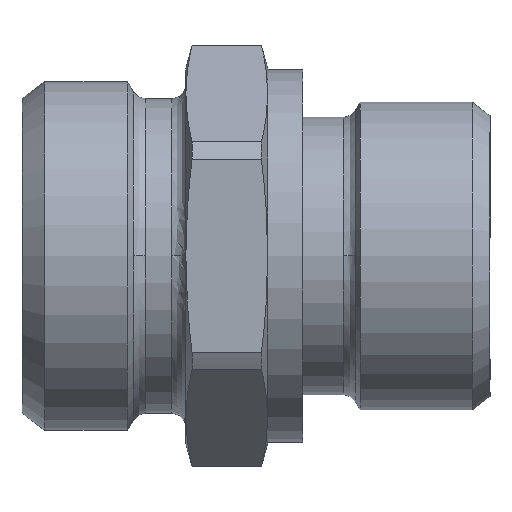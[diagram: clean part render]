
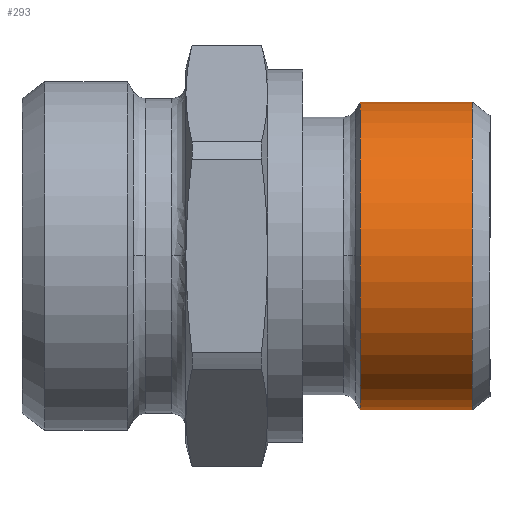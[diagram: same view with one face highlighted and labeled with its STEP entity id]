
A CAD part, top view. The second image highlights one B-rep face of the part: STEP entity #293.
In plain terms, the highlighted cylindrical face has radius 13.15 mm (diameter 26.3 mm), a partial arc.
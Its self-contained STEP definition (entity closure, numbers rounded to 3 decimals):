
#225=CARTESIAN_POINT('',(0.,13.15,-20.974));
#226=VERTEX_POINT('',#225);
#235=CARTESIAN_POINT('',(0.,-13.15,-20.974));
#236=VERTEX_POINT('',#235);
#237=CARTESIAN_POINT('',(0.,0.,-20.974));
#238=DIRECTION('',(0.0,0.0,-1.0));
#239=DIRECTION('',(0.0,1.0,0.0));
#240=AXIS2_PLACEMENT_3D('',#237,#238,#239);
#241=CIRCLE('',#240,13.15);
#242=EDGE_CURVE('',#226,#236,#241,.T.);
#262=CARTESIAN_POINT('',(0.,0.,-16.187));
#263=DIRECTION('',(0.,0.,-1.0));
#264=DIRECTION('',(0.0,1.0,0.0));
#265=AXIS2_PLACEMENT_3D('',#262,#263,#264);
#266=CYLINDRICAL_SURFACE('',#265,13.15);
#267=CARTESIAN_POINT('',(0.,13.15,-11.401));
#268=VERTEX_POINT('',#267);
#269=CARTESIAN_POINT('',(0.,13.15,-11.401));
#270=DIRECTION('',(0.0,0.0,-1.0));
#271=VECTOR('',#270,9.573);
#272=LINE('',#269,#271);
#273=EDGE_CURVE('',#268,#226,#272,.T.);
#274=ORIENTED_EDGE('',*,*,#273,.F.);
#275=CARTESIAN_POINT('',(0.,-13.15,-11.401));
#276=VERTEX_POINT('',#275);
#277=CARTESIAN_POINT('',(0.,0.,-11.401));
#278=DIRECTION('',(0.0,0.0,-1.0));
#279=DIRECTION('',(0.0,1.0,0.0));
#280=AXIS2_PLACEMENT_3D('',#277,#278,#279);
#281=CIRCLE('',#280,13.15);
#282=EDGE_CURVE('',#268,#276,#281,.T.);
#283=ORIENTED_EDGE('',*,*,#282,.T.);
#284=CARTESIAN_POINT('',(0.,-13.15,-20.974));
#285=DIRECTION('',(0.0,0.0,1.0));
#286=VECTOR('',#285,9.573);
#287=LINE('',#284,#286);
#288=EDGE_CURVE('',#236,#276,#287,.T.);
#289=ORIENTED_EDGE('',*,*,#288,.F.);
#290=ORIENTED_EDGE('',*,*,#242,.F.);
#291=EDGE_LOOP('',(#274,#283,#289,#290));
#292=FACE_OUTER_BOUND('',#291,.T.);
#293=ADVANCED_FACE('',(#292),#266,.T.);
